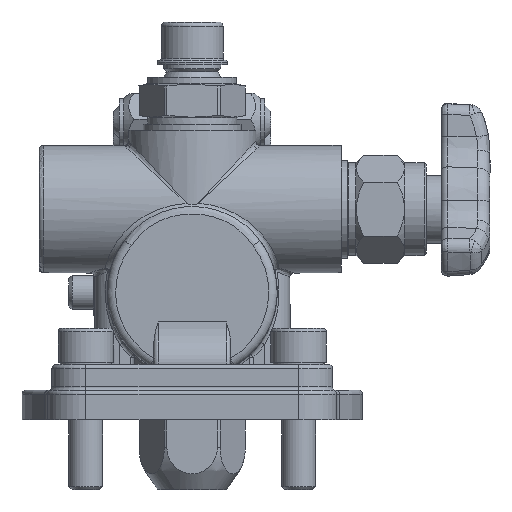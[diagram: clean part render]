
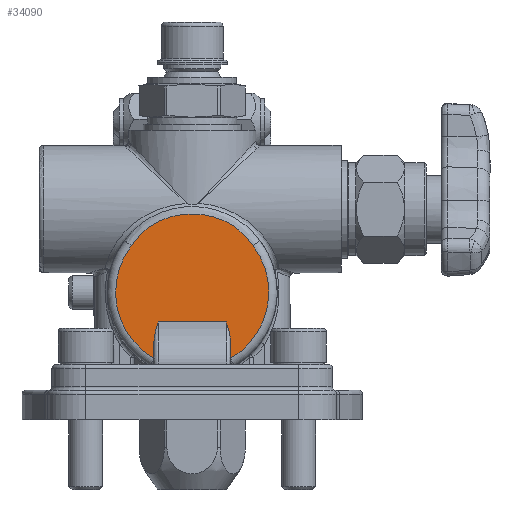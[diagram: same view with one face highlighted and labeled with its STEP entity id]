
A CAD part, left-side view. The second image highlights one B-rep face of the part: STEP entity #34090.
In plain terms, the highlighted planar face has unit normal (-1, 0, 0).
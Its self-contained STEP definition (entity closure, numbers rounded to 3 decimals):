
#34007=CARTESIAN_POINT('',(-25.5,0.,29.));
#34008=DIRECTION('',(-1.0,0.0,0.0));
#34009=DIRECTION('',(0.0,0.0,1.0));
#34010=AXIS2_PLACEMENT_3D('',#34007,#34008,#34009);
#34011=PLANE('',#34010);
#34012=CARTESIAN_POINT('',(-25.5,9.,13.412));
#34013=VERTEX_POINT('',#34012);
#34014=CARTESIAN_POINT('',(-25.5,14.312,39.917));
#34015=VERTEX_POINT('',#34014);
#34016=CARTESIAN_POINT('',(-25.5,0.,29.));
#34017=DIRECTION('',(1.0,0.0,0.0));
#34018=DIRECTION('',(0.0,0.0,1.0));
#34019=AXIS2_PLACEMENT_3D('',#34016,#34017,#34018);
#34020=CIRCLE('',#34019,18.0);
#34021=EDGE_CURVE('',#34013,#34015,#34020,.T.);
#34022=ORIENTED_EDGE('',*,*,#34021,.F.);
#34023=CARTESIAN_POINT('',(-25.5,9.,17.417));
#34024=VERTEX_POINT('',#34023);
#34025=CARTESIAN_POINT('',(-25.5,9.,13.412));
#34026=DIRECTION('',(0.0,0.0,1.0));
#34027=VECTOR('',#34026,4.006);
#34028=LINE('',#34025,#34027);
#34029=EDGE_CURVE('',#34013,#34024,#34028,.T.);
#34030=ORIENTED_EDGE('',*,*,#34029,.T.);
#34031=CARTESIAN_POINT('',(-25.5,8.,22.0));
#34032=VERTEX_POINT('',#34031);
#34033=CARTESIAN_POINT('',(-25.5,9.,17.417));
#34034=CARTESIAN_POINT('',(-25.5,9.,18.899));
#34035=CARTESIAN_POINT('',(-25.5,8.447,20.588));
#34036=CARTESIAN_POINT('',(-25.5,8.,22.0));
#34037=B_SPLINE_CURVE_WITH_KNOTS('',3,(#34033,#34034,#34035,#34036),.UNSPECIFIED.,.F.,.U.,(4,4),(0.913,1.357),.UNSPECIFIED.);
#34038=EDGE_CURVE('',#34032,#34024,#34037,.F.);
#34039=ORIENTED_EDGE('',*,*,#34038,.F.);
#34040=CARTESIAN_POINT('',(-25.5,-8.,22.0));
#34041=VERTEX_POINT('',#34040);
#34042=CARTESIAN_POINT('',(-25.5,-8.,22.0));
#34043=DIRECTION('',(0.0,1.0,0.0));
#34044=VECTOR('',#34043,16.);
#34045=LINE('',#34042,#34044);
#34046=EDGE_CURVE('',#34041,#34032,#34045,.T.);
#34047=ORIENTED_EDGE('',*,*,#34046,.F.);
#34048=CARTESIAN_POINT('',(-25.5,-9.,17.417));
#34049=VERTEX_POINT('',#34048);
#34050=CARTESIAN_POINT('',(-25.5,-8.,22.0));
#34051=CARTESIAN_POINT('',(-25.5,-8.447,20.588));
#34052=CARTESIAN_POINT('',(-25.5,-9.,18.899));
#34053=CARTESIAN_POINT('',(-25.5,-9.,17.417));
#34054=B_SPLINE_CURVE_WITH_KNOTS('',3,(#34050,#34051,#34052,#34053),.UNSPECIFIED.,.F.,.U.,(4,4),(0.0,0.444),.UNSPECIFIED.);
#34055=EDGE_CURVE('',#34049,#34041,#34054,.F.);
#34056=ORIENTED_EDGE('',*,*,#34055,.F.);
#34057=CARTESIAN_POINT('',(-25.5,-9.,13.412));
#34058=VERTEX_POINT('',#34057);
#34059=CARTESIAN_POINT('',(-25.5,-9.,17.417));
#34060=DIRECTION('',(0.0,0.0,-1.0));
#34061=VECTOR('',#34060,4.006);
#34062=LINE('',#34059,#34061);
#34063=EDGE_CURVE('',#34049,#34058,#34062,.T.);
#34064=ORIENTED_EDGE('',*,*,#34063,.T.);
#34065=CARTESIAN_POINT('',(-25.5,-14.312,39.917));
#34066=VERTEX_POINT('',#34065);
#34067=CARTESIAN_POINT('',(-25.5,0.,29.));
#34068=DIRECTION('',(1.0,0.0,0.0));
#34069=DIRECTION('',(0.0,0.0,1.0));
#34070=AXIS2_PLACEMENT_3D('',#34067,#34068,#34069);
#34071=CIRCLE('',#34070,18.0);
#34072=EDGE_CURVE('',#34066,#34058,#34071,.T.);
#34073=ORIENTED_EDGE('',*,*,#34072,.F.);
#34074=CARTESIAN_POINT('',(-25.5,14.312,39.917));
#34075=CARTESIAN_POINT('',(-25.5,13.827,40.552));
#34076=CARTESIAN_POINT('',(-25.5,12.849,41.819));
#34077=CARTESIAN_POINT('',(-25.5,10.602,44.118));
#34078=CARTESIAN_POINT('',(-25.5,7.143,46.227));
#34079=CARTESIAN_POINT('',(-25.5,0.841,47.796));
#34080=CARTESIAN_POINT('',(-25.5,-5.727,47.051));
#34081=CARTESIAN_POINT('',(-25.5,-10.598,44.13));
#34082=CARTESIAN_POINT('',(-25.5,-12.839,41.827));
#34083=CARTESIAN_POINT('',(-25.5,-13.827,40.552));
#34084=CARTESIAN_POINT('',(-25.5,-14.312,39.917));
#34085=B_SPLINE_CURVE_WITH_KNOTS('',3,(#34074,#34075,#34076,#34077,#34078,#34079,#34080,#34081,#34082,#34083,#34084),.UNSPECIFIED.,.F.,.U.,(4,1,1,1,1,1,1,1,4),(0.,0.24,0.48,0.959,1.439,2.398,2.878,3.117,3.357),.UNSPECIFIED.);
#34086=EDGE_CURVE('',#34015,#34066,#34085,.T.);
#34087=ORIENTED_EDGE('',*,*,#34086,.F.);
#34088=EDGE_LOOP('',(#34022,#34030,#34039,#34047,#34056,#34064,#34073,#34087));
#34089=FACE_OUTER_BOUND('',#34088,.T.);
#34090=ADVANCED_FACE('',(#34089),#34011,.T.);
